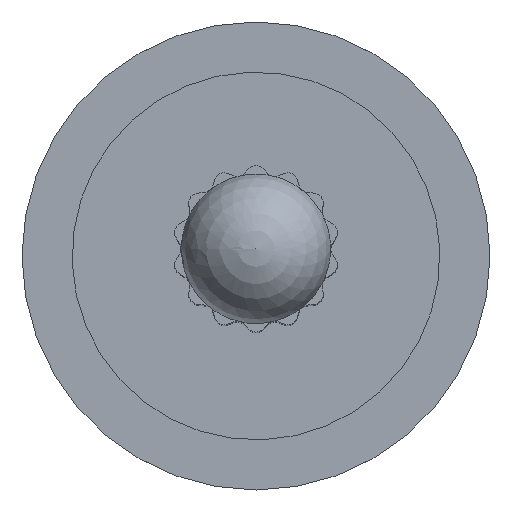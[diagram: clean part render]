
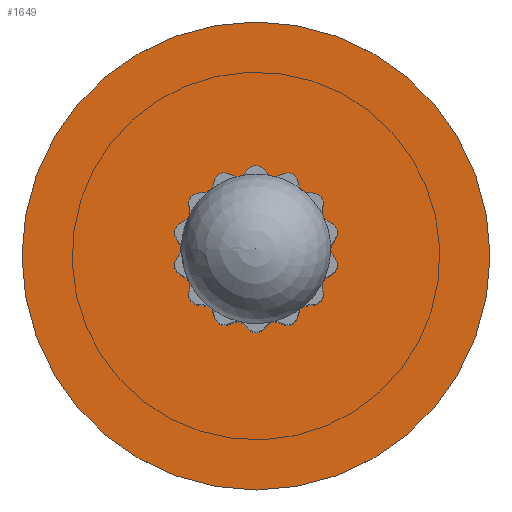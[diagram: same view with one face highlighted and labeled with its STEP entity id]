
A CAD part, top view. The second image highlights one B-rep face of the part: STEP entity #1649.
In plain terms, the highlighted planar face has unit normal (0, 0, 1).
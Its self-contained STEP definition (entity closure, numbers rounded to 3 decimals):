
#49=PLANE('',#1791);
#105=FACE_OUTER_BOUND('',#204,.T.);
#204=EDGE_LOOP('',(#1074));
#557=CIRCLE('',#1792,70.);
#658=VERTEX_POINT('',#2536);
#820=EDGE_CURVE('',#658,#658,#557,.T.);
#1074=ORIENTED_EDGE('',*,*,#820,.T.);
#1649=ADVANCED_FACE('',(#105),#49,.T.);
#1791=AXIS2_PLACEMENT_3D('',#2535,#2029,#2030);
#1792=AXIS2_PLACEMENT_3D('',#2537,#2031,#2032);
#2029=DIRECTION('center_axis',(0.,0.,
1.));
#2030=DIRECTION('ref_axis',(0.,-1.,0.));
#2031=DIRECTION('center_axis',(0.,0.,
1.));
#2032=DIRECTION('ref_axis',(1.,0.,0.));
#2535=CARTESIAN_POINT('Origin',(0.,0.,
2075.));
#2536=CARTESIAN_POINT('',(-70.,0.,2075.));
#2537=CARTESIAN_POINT('Origin',(0.,0.,
2075.));
